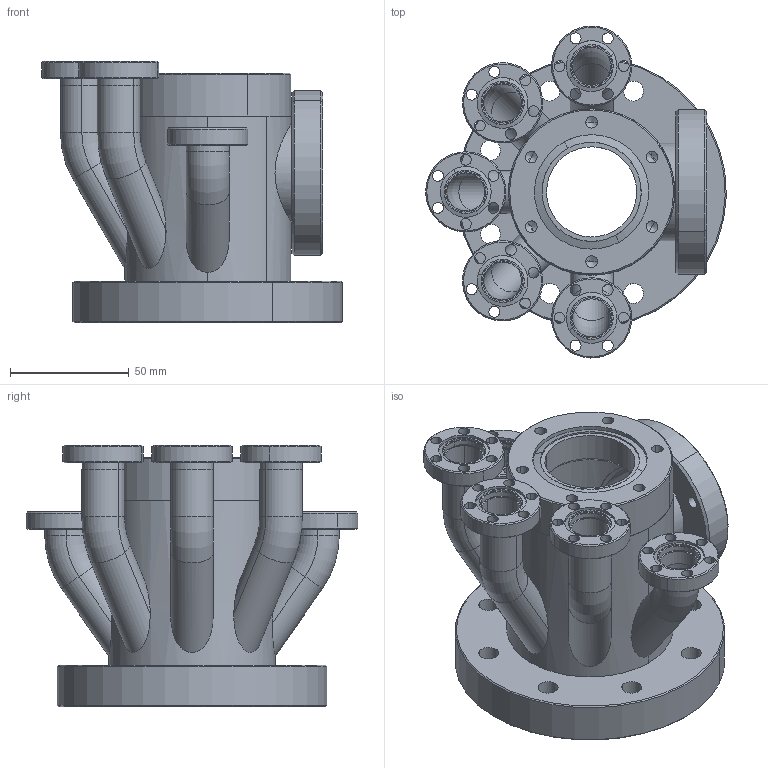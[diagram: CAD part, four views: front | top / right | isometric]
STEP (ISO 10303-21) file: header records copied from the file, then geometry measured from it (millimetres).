
FILE_DESCRIPTION(('Confidential','CAx-IF Rec.Pracs.--- Model Styling and Organization---1.2---2011-12-15'),'2;1');
FILE_NAME('W:\KONSTRUKTION\PRODUCTS\MP\MPCF\MPCF63\MPCF632XCF40T5XCF16\MPCF632XCF40T5XCF16_Rev_A.stp','2025-07-11T09:05:36+00:00',('none'),('Ferrovac AG'),'CATIA Version 5 Release 21 SP 6 (IN-10)','CATIA V5 STEP AP214 Edition 3','PROPERTY OF FERROVAC AG');
FILE_SCHEMA(('AUTOMOTIVE_DESIGN { 1 0 10303 214 3 1 1 1 }'));
Length unit declared in the file: millimetre
Products named in the file (7): MPCF632XCF40T5XCF16; MPCF632XCF40T5XCF16_ROOT; MPCF632XCF40T5XCF16_P1; MPCF632XCF40T5XCF16_P2; MPCF632XCF40T5XCF16_P3; MPCF632XCF40T5XCF16_P4; MPCF632XCF40T5XCF16_P6
Assembly tree (9 placements, depth 2):
  MPCF632XCF40T5XCF16
    MPCF632XCF40T5XCF16_ROOT
    MPCF632XCF40T5XCF16_P1
    MPCF632XCF40T5XCF16_P2
    MPCF632XCF40T5XCF16_P3  x3
    MPCF632XCF40T5XCF16_P4  x2
    MPCF632XCF40T5XCF16_P6
Bounding box: 126.63 x 139.79 x 110 mm (x, y, z)
Volume: 229935.6 mm3; surface area: 129859.1 mm2
Topology: 15 solids, 15 shells, 438 faces, 1153 edges, 751 vertices
Faces by surface type: cylinder 274, cone 84, plane 60, torus 20
Entity records: 9893 total; most frequent: CARTESIAN_POINT 2523, ORIENTED_EDGE 1610, DIRECTION 1161, EDGE_CURVE 805, AXIS2_PLACEMENT_3D 668, VERTEX_POINT 533, CIRCLE 466, EDGE_LOOP 398
